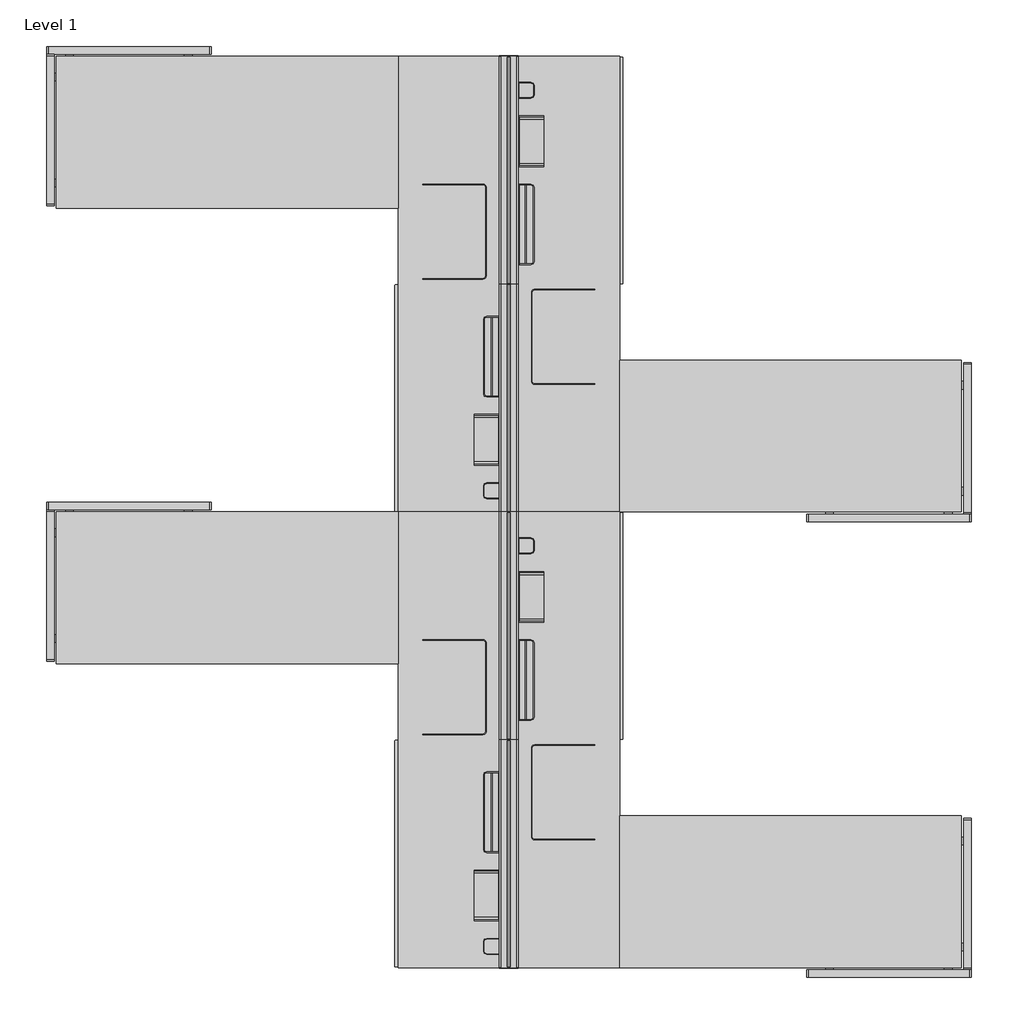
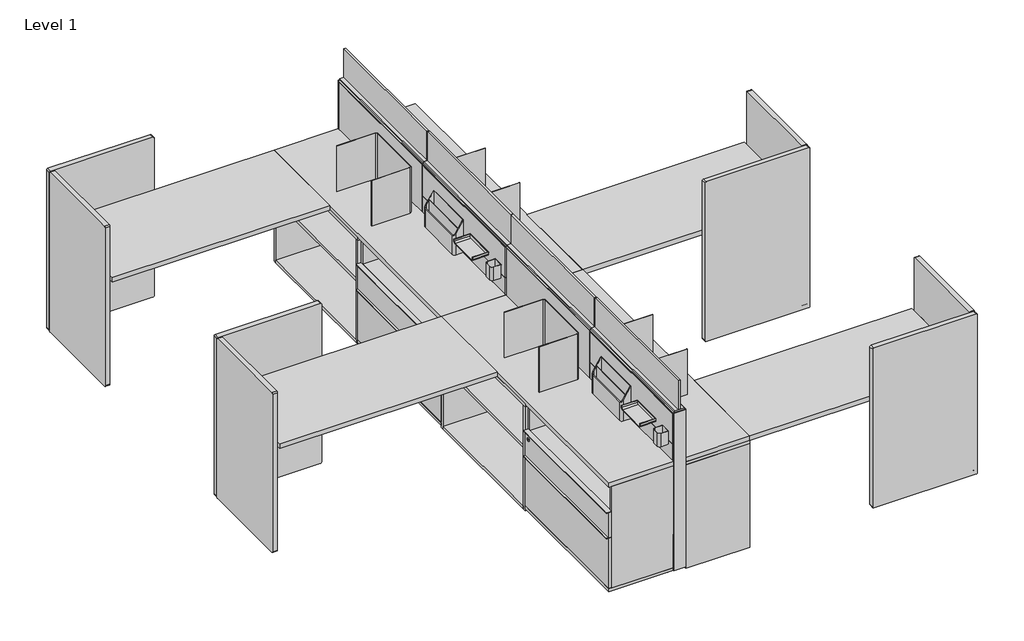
# One storey, incomplete: 48 furniture elements.
"""IFC4 building model written with IfcOpenShell, lengths in millimetres."""

from ifc_helpers import new_model, si_unit, origin, place, context, project, spatial, transform, mapped, element, save
from components import furniture_4d16a0e5, furniture_131be3bd, furniture_16d_72w_94a62672, furniture_2h_36w_56bdcc12, furniture_2h_36w_1ac3a8f6, furniture_54l_24w_ec741d94, haworth_belong_cubby_e2a51a68, haworth_belong_screen_gallery_back_screen_for_return_62437573, haworth_belong_screen_gallery_return_screen_956dbb98, haworth_belong_tool_cup_tool_cup_314b2932, haworth_belong_tool_hangingsorter_sorter_b643d65a, haworth_belong_tool_trayshelf_hanging_mini_shelf_abdf5a44, haworth_compose_panel_solid1_42h_36w_slat_9ff56704, haworth_compose_panel_solid1_42h_36w_slat_df57a7c7, haworth_compose_panel_solid1_42h_36w_slat_0916da06, haworth_compose_panel_solid1_42h_36w_slat_61d626ed, haworth_compose_panel_stackframelessglass1_8h_36w_a8066644

model = new_model("IFC4")

# Units and contexts
model_context = context("Model", 3, world=origin())
ifc_project = project(units=[si_unit("LENGTHUNIT", "METRE", prefix="MILLI")], contexts=[model_context])

# Site, building, storey
site = spatial("IfcSite", under=ifc_project)
building = spatial("IfcBuilding", under=site)
storey = spatial("IfcBuildingStorey", under=building, Name="Level 1", Elevation=0.0)

# Furniture
placement = place(None, origin())
furniture_shape = furniture_4d16a0e5(model_context)
element("IfcFurniture", 1, ObjectType="Haworth_BeHold_Modular_AttachedLateral : O/B/F - Inset Back - 36w", at=placement, inside=storey, context=model_context, shape_type="MappedRepresentation", body=[
    mapped(furniture_shape, transform((7615.1917376, 558.1540137, 0.0), x_axis=(0.0, -1.0, 0.0), y_axis=(1.0, 0.0, 0.0), z_axis=(0.0, 0.0, 1.0))),
])
element("IfcFurniture", 2, ObjectType="Haworth_BeHold_Modular_AttachedLateral : O/B/F - Inset Back - 36w", at=placement, inside=storey, context=model_context, shape_type="MappedRepresentation", body=[
    mapped(furniture_shape, transform((7513.5917376, -42.5276756, 0.0), x_axis=(0.0, 1.0, 0.0), y_axis=(-1.0, 0.0, 0.0), z_axis=(0.0, 0.0, 1.0))),
])
furniture_2_shape = furniture_131be3bd(model_context)
element("IfcFurniture", 3, ObjectType="Haworth_BeHold_Modular_AttachedLateral : O/B/F - Inset Back - 36w", at=placement, inside=storey, context=model_context, shape_type="MappedRepresentation", body=[
    mapped(furniture_2_shape, transform((7615.1917376, -956.9276756, 0.0), x_axis=(0.0, 1.0, 0.0), y_axis=(-1.0, 0.0, 0.0), z_axis=(0.0, 0.0, 1.0))),
])
element("IfcFurniture", 4, ObjectType="Haworth_BeHold_Modular_AttachedLateral : O/B/F - Inset Back - 36w", at=placement, inside=storey, context=model_context, shape_type="MappedRepresentation", body=[
    mapped(furniture_2_shape, transform((7513.5917376, 1472.5540137, 0.0), x_axis=(0.0, -1.0, 0.0), y_axis=(1.0, 0.0, 0.0), z_axis=(0.0, 0.0, 1.0))),
])
furniture_16d_72w_shape = furniture_16d_72w_94a62672(model_context)
element("IfcFurniture", 5, ObjectType="Haworth_BeHold_CommonTop : 16d 72w", at=placement, inside=storey, context=model_context, shape_type="MappedRepresentation", body=[
    mapped(furniture_16d_72w_shape, transform((7615.1917376, 1015.3540137, 171.45), x_axis=(0.0, -1.0, 0.0), y_axis=(1.0, 0.0, 0.0), z_axis=(0.0, 0.0, 1.0))),
])
element("IfcFurniture", 6, ObjectType="Haworth_BeHold_CommonTop : 16d 72w", at=placement, inside=storey, context=model_context, shape_type="MappedRepresentation", body=[
    mapped(furniture_16d_72w_shape, transform((7615.1917376, -813.4459863, 171.45), x_axis=(0.0, -1.0, 0.0), y_axis=(1.0, 0.0, 0.0), z_axis=(0.0, 0.0, 1.0))),
])
element("IfcFurniture", 7, ObjectType="Haworth_BeHold_CommonTop : 16d 72w", at=placement, inside=storey, context=model_context, shape_type="MappedRepresentation", body=[
    mapped(furniture_16d_72w_shape, transform((8097.7917376, 1015.3540137, 171.45), x_axis=(0.0, -1.0, 0.0), y_axis=(1.0, 0.0, 0.0), z_axis=(0.0, 0.0, 1.0))),
])
element("IfcFurniture", 8, ObjectType="Haworth_BeHold_CommonTop : 16d 72w", at=placement, inside=storey, context=model_context, shape_type="MappedRepresentation", body=[
    mapped(furniture_16d_72w_shape, transform((8097.7917376, -813.4459863, 171.45), x_axis=(0.0, -1.0, 0.0), y_axis=(1.0, 0.0, 0.0), z_axis=(0.0, 0.0, 1.0))),
])
furniture_2h_36w_shape = furniture_2h_36w_56bdcc12(model_context)
element("IfcFurniture", 9, ObjectType="Haworth_BeHold_Bookcase1 : 2h 36w", at=placement, inside=storey, context=model_context, shape_type="MappedRepresentation", body=[
    mapped(furniture_2h_36w_shape, transform((7615.1917376, 1786.2723244, 0.0), x_axis=(0.0, 1.0, 0.0), y_axis=(-1.0, 0.0, 0.0), z_axis=(0.0, 0.0, 1.0))),
])
element("IfcFurniture", 10, ObjectType="Haworth_BeHold_Bookcase1 : 2h 36w", at=placement, inside=storey, context=model_context, shape_type="MappedRepresentation", body=[
    mapped(furniture_2h_36w_shape, transform((7513.5917376, -1270.6459863, 0.0), x_axis=(0.0, -1.0, 0.0), y_axis=(1.0, 0.0, 0.0), z_axis=(0.0, 0.0, 1.0))),
])
furniture_2h_36w_2_shape = furniture_2h_36w_1ac3a8f6(model_context)
element("IfcFurniture", 11, ObjectType="Haworth_BeHold_Bookcase1 : 2h 36w", at=placement, inside=storey, context=model_context, shape_type="MappedRepresentation", body=[
    mapped(furniture_2h_36w_2_shape, transform((7615.1917376, -356.2459863, 0.0), x_axis=(0.0, -1.0, 0.0), y_axis=(1.0, 0.0, 0.0), z_axis=(0.0, 0.0, 1.0))),
])
element("IfcFurniture", 12, ObjectType="Haworth_BeHold_Bookcase1 : 2h 36w", at=placement, inside=storey, context=model_context, shape_type="MappedRepresentation", body=[
    mapped(furniture_2h_36w_2_shape, transform((7513.5917376, 871.8723244, 0.0), x_axis=(0.0, 1.0, 0.0), y_axis=(-1.0, 0.0, 0.0), z_axis=(0.0, 0.0, 1.0))),
])
furniture_54l_24w_shape = furniture_54l_24w_ec741d94(model_context)
element("IfcFurniture", 13, ObjectType="Haworth_Compose_Worksurface_RectangularConvergent : 54L 24w", at=placement, inside=storey, context=model_context, shape_type="MappedRepresentation", body=[
    mapped(furniture_54l_24w_shape, transform((6434.0917376, 1781.813169, 4.5640625), x_axis=(0.0, 1.0, 0.0), y_axis=(-1.0, 0.0, 0.0), z_axis=(0.0, 0.0, 1.0))),
])
element("IfcFurniture", 14, ObjectType="Haworth_Compose_Worksurface_RectangularConvergent : 54L 24w", at=placement, inside=storey, context=model_context, shape_type="MappedRepresentation", body=[
    mapped(furniture_54l_24w_shape, transform((6434.0917376, -46.986831, 4.5640625), x_axis=(0.0, 1.0, 0.0), y_axis=(-1.0, 0.0, 0.0), z_axis=(0.0, 0.0, 1.0))),
])
element("IfcFurniture", 15, ObjectType="Haworth_Compose_Worksurface_RectangularConvergent : 54L 24w", at=placement, inside=storey, context=model_context, shape_type="MappedRepresentation", body=[
    mapped(furniture_54l_24w_shape, transform((8694.6917376, -1266.186831, 4.5640625), x_axis=(0.0, -1.0, 0.0), y_axis=(1.0, 0.0, 0.0), z_axis=(0.0, 0.0, 1.0))),
])
element("IfcFurniture", 16, ObjectType="Haworth_Compose_Worksurface_RectangularConvergent : 54L 24w", at=placement, inside=storey, context=model_context, shape_type="MappedRepresentation", body=[
    mapped(furniture_54l_24w_shape, transform((8694.6917376, 562.613169, 4.5640625), x_axis=(0.0, -1.0, 0.0), y_axis=(1.0, 0.0, 0.0), z_axis=(0.0, 0.0, 1.0))),
])
haworth_belong_cubby_shape = haworth_belong_cubby_e2a51a68(model_context)
element("IfcFurniture", 17, ObjectType="Haworth_Belong_Cubby : 9h - No Slots", at=placement, inside=storey, context=model_context, shape_type="MappedRepresentation", body=[
    mapped(haworth_belong_cubby_shape, transform((7472.3449271, 1383.5581443, 131.5640625), x_axis=(0.0, 1.0, 0.0), y_axis=(-1.0, 0.0, 0.0), z_axis=(0.0, 0.0, 1.0))),
])
element("IfcFurniture", 18, ObjectType="Haworth_Belong_Cubby : 9h - No Slots", at=placement, inside=storey, context=model_context, shape_type="MappedRepresentation", body=[
    mapped(haworth_belong_cubby_shape, transform((7472.3449271, -445.2418557, 131.5640625), x_axis=(0.0, 1.0, 0.0), y_axis=(-1.0, 0.0, 0.0), z_axis=(0.0, 0.0, 1.0))),
])
element("IfcFurniture", 19, ObjectType="Haworth_Belong_Cubby : 9h - No Slots", at=placement, inside=storey, context=model_context, shape_type="MappedRepresentation", body=[
    mapped(haworth_belong_cubby_shape, transform((7656.438548, -867.9318062, 131.5640625), x_axis=(0.0, -1.0, 0.0), y_axis=(1.0, 0.0, 0.0), z_axis=(0.0, 0.0, 1.0))),
])
element("IfcFurniture", 20, ObjectType="Haworth_Belong_Cubby : 9h - No Slots", at=placement, inside=storey, context=model_context, shape_type="MappedRepresentation", body=[
    mapped(haworth_belong_cubby_shape, transform((7656.438548, 960.8681938, 131.5640625), x_axis=(0.0, -1.0, 0.0), y_axis=(1.0, 0.0, 0.0), z_axis=(0.0, 0.0, 1.0))),
])
haworth_belong_screen_gallery_back_screen_for_return_shape = haworth_belong_screen_gallery_back_screen_for_return_62437573(model_context)
element("IfcFurniture", 21, ObjectType="Haworth_Belong_Screen : Gallery Back Screen For Return", at=placement, inside=storey, context=model_context, shape_type="MappedRepresentation", body=[
    mapped(haworth_belong_screen_gallery_back_screen_for_return_shape, transform((6071.4687803, 2115.1881836, 0.0), x_axis=(0.999999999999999, 4.3711394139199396e-08, 0.0), y_axis=(-4.3711394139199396e-08, 0.999999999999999, 0.0), z_axis=(0.0, 0.0, 1.0))),
])
element("IfcFurniture", 22, ObjectType="Haworth_Belong_Screen : Gallery Back Screen For Return", at=placement, inside=storey, context=model_context, shape_type="MappedRepresentation", body=[
    mapped(haworth_belong_screen_gallery_back_screen_for_return_shape, transform((6071.4687803, 286.3881836, 0.0), x_axis=(0.999999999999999, 4.3711394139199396e-08, 0.0), y_axis=(-4.3711394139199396e-08, 0.999999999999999, 0.0), z_axis=(0.0, 0.0, 1.0))),
])
element("IfcFurniture", 23, ObjectType="Haworth_Belong_Screen : Gallery Back Screen For Return", at=placement, inside=storey, context=model_context, shape_type="MappedRepresentation", body=[
    mapped(haworth_belong_screen_gallery_back_screen_for_return_shape, transform((9057.3146948, -1599.5618455, 0.0), x_axis=(-0.999999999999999, -4.371145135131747e-08, 0.0), y_axis=(4.371145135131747e-08, -0.999999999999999, 0.0), z_axis=(0.0, 0.0, 1.0))),
])
element("IfcFurniture", 24, ObjectType="Haworth_Belong_Screen : Gallery Back Screen For Return", at=placement, inside=storey, context=model_context, shape_type="MappedRepresentation", body=[
    mapped(haworth_belong_screen_gallery_back_screen_for_return_shape, transform((9057.3146948, 229.2381545, 0.0), x_axis=(-0.999999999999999, -4.371145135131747e-08, 0.0), y_axis=(4.371145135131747e-08, -0.999999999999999, 0.0), z_axis=(0.0, 0.0, 1.0))),
])
haworth_belong_screen_gallery_return_screen_shape = haworth_belong_screen_gallery_return_screen_956dbb98(model_context)
element("IfcFurniture", 25, ObjectType="Haworth_Belong_Screen : Gallery Return Screen", at=placement, inside=storey, context=model_context, shape_type="MappedRepresentation", body=[
    mapped(haworth_belong_screen_gallery_return_screen_shape, transform((5719.7167523, 1758.6736246, 0.0), x_axis=(4.3711394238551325e-08, -0.999999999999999, 0.0), y_axis=(0.999999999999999, 4.3711394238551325e-08, 0.0), z_axis=(0.0, 0.0, 1.0))),
])
element("IfcFurniture", 26, ObjectType="Haworth_Belong_Screen : Gallery Return Screen", at=placement, inside=storey, context=model_context, shape_type="MappedRepresentation", body=[
    mapped(haworth_belong_screen_gallery_return_screen_shape, transform((5719.7167523, -70.1263754, 0.0), x_axis=(4.3711394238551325e-08, -0.999999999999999, 0.0), y_axis=(0.999999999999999, 4.3711394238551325e-08, 0.0), z_axis=(0.0, 0.0, 1.0))),
])
element("IfcFurniture", 27, ObjectType="Haworth_Belong_Screen : Gallery Return Screen", at=placement, inside=storey, context=model_context, shape_type="MappedRepresentation", body=[
    mapped(haworth_belong_screen_gallery_return_screen_shape, transform((9409.0667228, -1243.0472865, 0.0), x_axis=(-4.37114514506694e-08, 0.999999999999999, 0.0), y_axis=(-0.999999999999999, -4.37114514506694e-08, 0.0), z_axis=(0.0, 0.0, 1.0))),
])
element("IfcFurniture", 28, ObjectType="Haworth_Belong_Screen : Gallery Return Screen", at=placement, inside=storey, context=model_context, shape_type="MappedRepresentation", body=[
    mapped(haworth_belong_screen_gallery_return_screen_shape, transform((9409.0667228, 585.7527135, 0.0), x_axis=(-4.37114514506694e-08, 0.999999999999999, 0.0), y_axis=(-0.999999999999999, -4.37114514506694e-08, 0.0), z_axis=(0.0, 0.0, 1.0))),
])
haworth_belong_tool_cup_tool_cup_shape = haworth_belong_tool_cup_tool_cup_314b2932(model_context)
element("IfcFurniture", 29, ObjectType="Haworth_Belong_Tool_Cup : Tool Cup", at=placement, inside=storey, context=model_context, shape_type="MappedRepresentation", body=[
    mapped(haworth_belong_tool_cup_tool_cup_shape, transform((7526.2917424, 507.6818972, 823.9125), x_axis=(0.0, -1.0, 0.0), y_axis=(1.0, 0.0, 0.0), z_axis=(0.0, 0.0, 1.0))),
])
element("IfcFurniture", 30, ObjectType="Haworth_Belong_Tool_Cup : Tool Cup", at=placement, inside=storey, context=model_context, shape_type="MappedRepresentation", body=[
    mapped(haworth_belong_tool_cup_tool_cup_shape, transform((7526.2917424, -1321.1181028, 823.9125), x_axis=(0.0, -1.0, 0.0), y_axis=(1.0, 0.0, 0.0), z_axis=(0.0, 0.0, 1.0))),
])
element("IfcFurniture", 31, ObjectType="Haworth_Belong_Tool_Cup : Tool Cup", at=placement, inside=storey, context=model_context, shape_type="MappedRepresentation", body=[
    mapped(haworth_belong_tool_cup_tool_cup_shape, transform((7602.4917327, -42.8555591, 823.9125), x_axis=(0.0, 1.0, 0.0), y_axis=(-1.0, 0.0, 0.0), z_axis=(0.0, 0.0, 1.0))),
])
element("IfcFurniture", 32, ObjectType="Haworth_Belong_Tool_Cup : Tool Cup", at=placement, inside=storey, context=model_context, shape_type="MappedRepresentation", body=[
    mapped(haworth_belong_tool_cup_tool_cup_shape, transform((7602.4917327, 1785.9444409, 823.9125), x_axis=(0.0, 1.0, 0.0), y_axis=(-1.0, 0.0, 0.0), z_axis=(0.0, 0.0, 1.0))),
])
haworth_belong_tool_hangingsorter_sorter_shape = haworth_belong_tool_hangingsorter_sorter_b643d65a(model_context)
element("IfcFurniture", 33, ObjectType="Haworth_Belong_Tool_HangingSorter : Sorter", at=placement, inside=storey, context=model_context, shape_type="MappedRepresentation", body=[
    mapped(haworth_belong_tool_hangingsorter_sorter_shape, transform((7526.2917376, 1046.5931938, 747.7125), x_axis=(0.0, -1.0, 0.0), y_axis=(1.0, 0.0, 0.0), z_axis=(0.0, 0.0, 1.0))),
])
element("IfcFurniture", 34, ObjectType="Haworth_Belong_Tool_HangingSorter : Sorter", at=placement, inside=storey, context=model_context, shape_type="MappedRepresentation", body=[
    mapped(haworth_belong_tool_hangingsorter_sorter_shape, transform((7526.2917376, -782.2068062, 747.7125), x_axis=(0.0, -1.0, 0.0), y_axis=(1.0, 0.0, 0.0), z_axis=(0.0, 0.0, 1.0))),
])
element("IfcFurniture", 35, ObjectType="Haworth_Belong_Tool_HangingSorter : Sorter", at=placement, inside=storey, context=model_context, shape_type="MappedRepresentation", body=[
    mapped(haworth_belong_tool_hangingsorter_sorter_shape, transform((7602.4917376, -581.7668557, 747.7125), x_axis=(0.0, 1.0, 0.0), y_axis=(-1.0, 0.0, 0.0), z_axis=(0.0, 0.0, 1.0))),
])
element("IfcFurniture", 36, ObjectType="Haworth_Belong_Tool_HangingSorter : Sorter", at=placement, inside=storey, context=model_context, shape_type="MappedRepresentation", body=[
    mapped(haworth_belong_tool_hangingsorter_sorter_shape, transform((7602.4917376, 1247.0331443, 747.7125), x_axis=(0.0, 1.0, 0.0), y_axis=(-1.0, 0.0, 0.0), z_axis=(0.0, 0.0, 1.0))),
])
haworth_belong_tool_trayshelf_hanging_mini_shelf_shape = haworth_belong_tool_trayshelf_hanging_mini_shelf_abdf5a44(model_context)
element("IfcFurniture", 37, ObjectType="Haworth_Belong_Tool_TrayShelf : Hanging Mini Shelf", at=placement, inside=storey, context=model_context, shape_type="MappedRepresentation", body=[
    mapped(haworth_belong_tool_trayshelf_hanging_mini_shelf_shape, transform((7526.2917379, 712.7847078, 887.4125), x_axis=(0.0, -1.0, 0.0), y_axis=(1.0, 0.0, 0.0), z_axis=(0.0, 0.0, 1.0))),
])
element("IfcFurniture", 38, ObjectType="Haworth_Belong_Tool_TrayShelf : Hanging Mini Shelf", at=placement, inside=storey, context=model_context, shape_type="MappedRepresentation", body=[
    mapped(haworth_belong_tool_trayshelf_hanging_mini_shelf_shape, transform((7526.2917379, -1116.0152922, 887.4125), x_axis=(0.0, -1.0, 0.0), y_axis=(1.0, 0.0, 0.0), z_axis=(0.0, 0.0, 1.0))),
])
element("IfcFurniture", 39, ObjectType="Haworth_Belong_Tool_TrayShelf : Hanging Mini Shelf", at=placement, inside=storey, context=model_context, shape_type="MappedRepresentation", body=[
    mapped(haworth_belong_tool_trayshelf_hanging_mini_shelf_shape, transform((7602.4917373, -247.9583697, 887.4125), x_axis=(0.0, 1.0, 0.0), y_axis=(-1.0, 0.0, 0.0), z_axis=(0.0, 0.0, 1.0))),
])
element("IfcFurniture", 40, ObjectType="Haworth_Belong_Tool_TrayShelf : Hanging Mini Shelf", at=placement, inside=storey, context=model_context, shape_type="MappedRepresentation", body=[
    mapped(haworth_belong_tool_trayshelf_hanging_mini_shelf_shape, transform((7602.4917373, 1580.8416303, 887.4125), x_axis=(0.0, 1.0, 0.0), y_axis=(-1.0, 0.0, 0.0), z_axis=(0.0, 0.0, 1.0))),
])
haworth_compose_panel_solid1_42h_36w_slat_shape = haworth_compose_panel_solid1_42h_36w_slat_9ff56704(model_context)
element("IfcFurniture", 41, ObjectType="Haworth_Compose_Panel_Solid1 : 42h 36w_Slat", at=placement, inside=storey, context=model_context, shape_type="MappedRepresentation", body=[
    mapped(haworth_compose_panel_solid1_42h_36w_slat_shape, transform((7564.3917376, -1116.2271211, 0.0), x_axis=(0.0, 1.0, 0.0), y_axis=(-1.0, 0.0, 0.0), z_axis=(0.0, 0.0, 1.0))),
])
haworth_compose_panel_solid1_42h_36w_slat_2_shape = haworth_compose_panel_solid1_42h_36w_slat_df57a7c7(model_context)
element("IfcFurniture", 42, ObjectType="Haworth_Compose_Panel_Solid1 : 42h 36w_Slat", at=placement, inside=storey, context=model_context, shape_type="MappedRepresentation", body=[
    mapped(haworth_compose_panel_solid1_42h_36w_slat_2_shape, transform((7564.3917376, 712.5728789, 0.0), x_axis=(0.0, 1.0, 0.0), y_axis=(-1.0, 0.0, 0.0), z_axis=(0.0, 0.0, 1.0))),
])
haworth_compose_panel_solid1_42h_36w_slat_3_shape = haworth_compose_panel_solid1_42h_36w_slat_0916da06(model_context)
element("IfcFurniture", 43, ObjectType="Haworth_Compose_Panel_Solid1 : 42h 36w_Slat", at=placement, inside=storey, context=model_context, shape_type="MappedRepresentation", body=[
    mapped(haworth_compose_panel_solid1_42h_36w_slat_3_shape, transform((7564.3917376, -201.8271211, 0.0), x_axis=(0.0, 1.0, 0.0), y_axis=(-1.0, 0.0, 0.0), z_axis=(0.0, 0.0, 1.0))),
])
haworth_compose_panel_solid1_42h_36w_slat_4_shape = haworth_compose_panel_solid1_42h_36w_slat_61d626ed(model_context)
element("IfcFurniture", 44, ObjectType="Haworth_Compose_Panel_Solid1 : 42h 36w_Slat", at=placement, inside=storey, context=model_context, shape_type="MappedRepresentation", body=[
    mapped(haworth_compose_panel_solid1_42h_36w_slat_4_shape, transform((7564.3917376, 1626.9728789, 0.0), x_axis=(0.0, 1.0, 0.0), y_axis=(-1.0, 0.0, 0.0), z_axis=(0.0, 0.0, 1.0))),
])
haworth_compose_panel_stackframelessglass1_8h_36w_shape = haworth_compose_panel_stackframelessglass1_8h_36w_a8066644(model_context)
element("IfcFurniture", 45, ObjectType="Haworth_Compose_Panel_StackFramelessGlass1 : 8h 36w", at=placement, inside=storey, context=model_context, shape_type="MappedRepresentation", body=[
    mapped(haworth_compose_panel_stackframelessglass1_8h_36w_shape, transform((7585.351097, 1631.8534592, -206.375), x_axis=(0.0, -1.0, 0.0), y_axis=(1.0, 0.0, 0.0), z_axis=(0.0, 0.0, 1.0))),
])
element("IfcFurniture", 46, ObjectType="Haworth_Compose_Panel_StackFramelessGlass1 : 8h 36w", at=placement, inside=storey, context=model_context, shape_type="MappedRepresentation", body=[
    mapped(haworth_compose_panel_stackframelessglass1_8h_36w_shape, transform((7585.351097, 717.4534592, -206.375), x_axis=(0.0, -1.0, 0.0), y_axis=(1.0, 0.0, 0.0), z_axis=(0.0, 0.0, 1.0))),
])
element("IfcFurniture", 47, ObjectType="Haworth_Compose_Panel_StackFramelessGlass1 : 8h 36w", at=placement, inside=storey, context=model_context, shape_type="MappedRepresentation", body=[
    mapped(haworth_compose_panel_stackframelessglass1_8h_36w_shape, transform((7585.351097, -196.9465408, -206.375), x_axis=(0.0, -1.0, 0.0), y_axis=(1.0, 0.0, 0.0), z_axis=(0.0, 0.0, 1.0))),
])
element("IfcFurniture", 48, ObjectType="Haworth_Compose_Panel_StackFramelessGlass1 : 8h 36w", at=placement, inside=storey, context=model_context, shape_type="MappedRepresentation", body=[
    mapped(haworth_compose_panel_stackframelessglass1_8h_36w_shape, transform((7585.351097, -1111.3465408, -206.375), x_axis=(0.0, -1.0, 0.0), y_axis=(1.0, 0.0, 0.0), z_axis=(0.0, 0.0, 1.0))),
])

save(model, "model.ifc")
